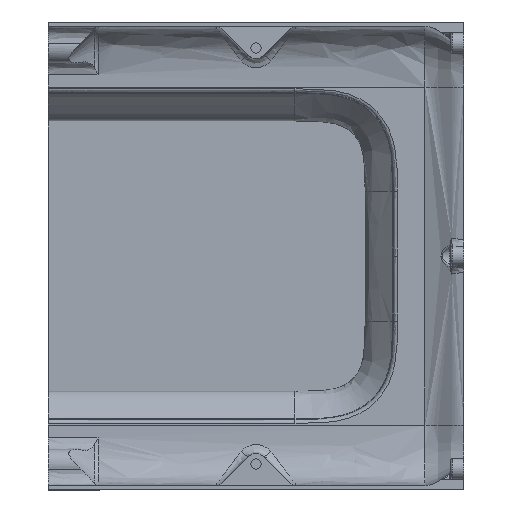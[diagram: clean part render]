
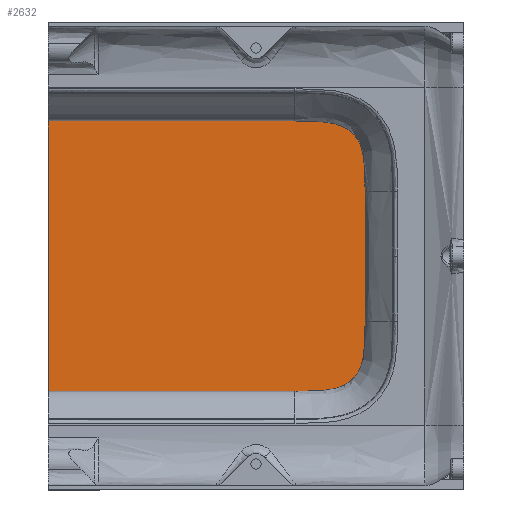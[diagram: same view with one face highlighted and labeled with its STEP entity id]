
A CAD part, top view. The second image highlights one B-rep face of the part: STEP entity #2632.
In plain terms, the highlighted planar face has unit normal (0, 0, 1).
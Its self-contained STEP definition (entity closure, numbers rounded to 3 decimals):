
#82=PLANE('',#2789);
#239=LINE('',#7428,#335);
#270=LINE('',#10688,#366);
#274=LINE('',#10772,#370);
#275=LINE('',#10774,#371);
#335=VECTOR('',#3012,10.);
#366=VECTOR('',#3149,10.);
#370=VECTOR('',#3155,10.);
#371=VECTOR('',#3158,10.);
#513=FACE_OUTER_BOUND('',#663,.T.);
#663=EDGE_LOOP('',(#2291,#2292,#2293,#2294,#2295,#2296));
#832=B_SPLINE_CURVE_WITH_KNOTS('',3,(#7488,#7489,#7490,#7491,#7492,#7493,
#7494,#7495,#7496,#7497,#7498,#7499,#7500,#7501,#7502,#7503,#7504,#7505,
#7506,#7507,#7508,#7509),.UNSPECIFIED.,.F.,.F.,(4,3,3,3,3,3,3,4),(-3.368,
-3.194,-3.02,-2.776,-2.416,
-1.645,-0.822,0.),.UNSPECIFIED.);
#910=B_SPLINE_CURVE_WITH_KNOTS('',3,(#10748,#10749,#10750,#10751,#10752,
#10753,#10754,#10755,#10756,#10757,#10758,#10759,#10760,#10761,#10762,#10763,
#10764,#10765,#10766,#10767,#10768,#10769),.UNSPECIFIED.,.F.,.F.,(4,3,3,
3,3,3,3,4),(-3.368,-3.194,-3.02,-2.776,
-2.416,-1.645,-0.822,0.),
 .UNSPECIFIED.);
#1103=VERTEX_POINT('',#7426);
#1104=VERTEX_POINT('',#7427);
#1105=VERTEX_POINT('',#7487);
#1181=VERTEX_POINT('',#10686);
#1182=VERTEX_POINT('',#10687);
#1183=VERTEX_POINT('',#10747);
#1437=EDGE_CURVE('',#1103,#1104,#239,.T.);
#1440=EDGE_CURVE('',#1105,#1103,#832,.T.);
#1578=EDGE_CURVE('',#1181,#1182,#270,.T.);
#1581=EDGE_CURVE('',#1183,#1181,#910,.T.);
#1583=EDGE_CURVE('',#1183,#1105,#274,.T.);
#1584=EDGE_CURVE('',#1104,#1182,#275,.T.);
#2291=ORIENTED_EDGE('',*,*,#1584,.T.);
#2292=ORIENTED_EDGE('',*,*,#1578,.F.);
#2293=ORIENTED_EDGE('',*,*,#1581,.F.);
#2294=ORIENTED_EDGE('',*,*,#1583,.T.);
#2295=ORIENTED_EDGE('',*,*,#1440,.T.);
#2296=ORIENTED_EDGE('',*,*,#1437,.T.);
#2632=ADVANCED_FACE('',(#513),#82,.F.);
#2789=AXIS2_PLACEMENT_3D('',#10773,#3156,#3157);
#3012=DIRECTION('',(-1.,0.,0.));
#3149=DIRECTION('',(-1.,0.,0.));
#3155=DIRECTION('',(0.,1.,0.));
#3156=DIRECTION('center_axis',(0.,0.,-1.));
#3157=DIRECTION('ref_axis',(1.,0.,0.));
#3158=DIRECTION('',(0.,-1.,0.));
#7426=CARTESIAN_POINT('',(95.,52.,116.6));
#7427=CARTESIAN_POINT('',(0.,52.,116.6));
#7428=CARTESIAN_POINT('',(30.502,52.,116.6));
#7487=CARTESIAN_POINT('',(122.,25.,116.6));
#7488=CARTESIAN_POINT('Ctrl Pts',(122.,25.,116.6));
#7489=CARTESIAN_POINT('Ctrl Pts',(122.,28.202,116.6));
#7490=CARTESIAN_POINT('Ctrl Pts',(121.989,31.039,116.6));
#7491=CARTESIAN_POINT('Ctrl Pts',(121.855,33.5,116.6));
#7492=CARTESIAN_POINT('Ctrl Pts',(121.721,35.961,116.6));
#7493=CARTESIAN_POINT('Ctrl Pts',(121.463,38.045,116.6));
#7494=CARTESIAN_POINT('Ctrl Pts',(121.04,39.86,116.6));
#7495=CARTESIAN_POINT('Ctrl Pts',(120.448,42.4,116.6));
#7496=CARTESIAN_POINT('Ctrl Pts',(119.726,43.902,116.6));
#7497=CARTESIAN_POINT('Ctrl Pts',(118.901,45.185,116.6));
#7498=CARTESIAN_POINT('Ctrl Pts',(117.683,47.08,116.6));
#7499=CARTESIAN_POINT('Ctrl Pts',(116.451,48.039,116.6));
#7500=CARTESIAN_POINT('Ctrl Pts',(115.573,48.648,116.6));
#7501=CARTESIAN_POINT('Ctrl Pts',(113.694,49.953,116.6));
#7502=CARTESIAN_POINT('Ctrl Pts',(111.472,50.681,116.6));
#7503=CARTESIAN_POINT('Ctrl Pts',(109.789,51.063,116.6));
#7504=CARTESIAN_POINT('Ctrl Pts',(107.995,51.471,116.6));
#7505=CARTESIAN_POINT('Ctrl Pts',(105.905,51.727,116.6));
#7506=CARTESIAN_POINT('Ctrl Pts',(103.449,51.859,116.6));
#7507=CARTESIAN_POINT('Ctrl Pts',(100.992,51.992,116.6));
#7508=CARTESIAN_POINT('Ctrl Pts',(98.168,52.,116.6));
#7509=CARTESIAN_POINT('Ctrl Pts',(95.,52.,116.6));
#10686=CARTESIAN_POINT('',(95.,-52.,116.6));
#10687=CARTESIAN_POINT('',(0.,-52.,116.6));
#10688=CARTESIAN_POINT('',(30.502,-52.,116.6));
#10747=CARTESIAN_POINT('',(122.,-25.,116.6));
#10748=CARTESIAN_POINT('Ctrl Pts',(122.,-25.,116.6));
#10749=CARTESIAN_POINT('Ctrl Pts',(122.,-28.202,116.6));
#10750=CARTESIAN_POINT('Ctrl Pts',(121.989,-31.039,116.6));
#10751=CARTESIAN_POINT('Ctrl Pts',(121.855,-33.5,116.6));
#10752=CARTESIAN_POINT('Ctrl Pts',(121.721,-35.961,116.6));
#10753=CARTESIAN_POINT('Ctrl Pts',(121.463,-38.045,116.6));
#10754=CARTESIAN_POINT('Ctrl Pts',(121.04,-39.86,116.6));
#10755=CARTESIAN_POINT('Ctrl Pts',(120.448,-42.4,116.6));
#10756=CARTESIAN_POINT('Ctrl Pts',(119.726,-43.902,116.6));
#10757=CARTESIAN_POINT('Ctrl Pts',(118.901,-45.185,116.6));
#10758=CARTESIAN_POINT('Ctrl Pts',(117.683,-47.08,116.6));
#10759=CARTESIAN_POINT('Ctrl Pts',(116.451,-48.039,116.6));
#10760=CARTESIAN_POINT('Ctrl Pts',(115.573,-48.648,116.6));
#10761=CARTESIAN_POINT('Ctrl Pts',(113.694,-49.953,116.6));
#10762=CARTESIAN_POINT('Ctrl Pts',(111.472,-50.681,116.6));
#10763=CARTESIAN_POINT('Ctrl Pts',(109.789,-51.063,116.6));
#10764=CARTESIAN_POINT('Ctrl Pts',(107.995,-51.471,116.6));
#10765=CARTESIAN_POINT('Ctrl Pts',(105.905,-51.727,116.6));
#10766=CARTESIAN_POINT('Ctrl Pts',(103.449,-51.859,116.6));
#10767=CARTESIAN_POINT('Ctrl Pts',(100.992,-51.992,116.6));
#10768=CARTESIAN_POINT('Ctrl Pts',(98.168,-52.,116.6));
#10769=CARTESIAN_POINT('Ctrl Pts',(95.,-52.,116.6));
#10772=CARTESIAN_POINT('',(122.,12.5,116.6));
#10773=CARTESIAN_POINT('Origin',(61.003,-0.001,
116.6));
#10774=CARTESIAN_POINT('',(0.,-52.,116.6));
